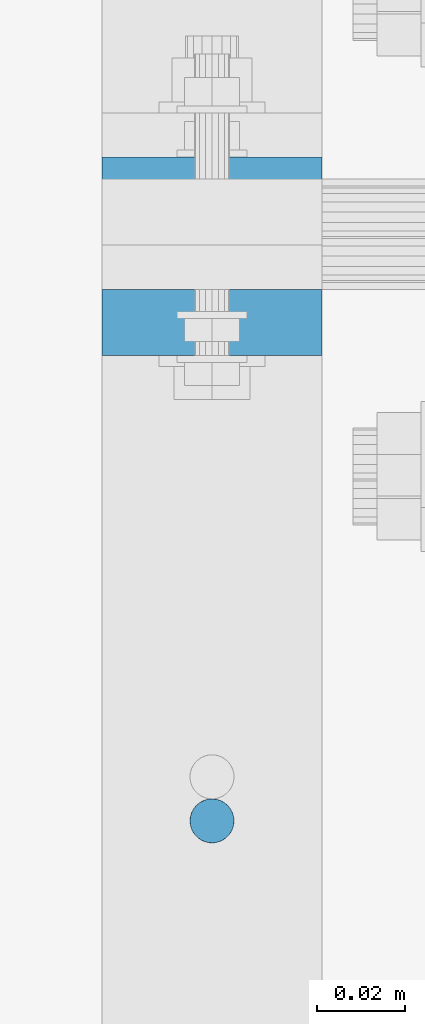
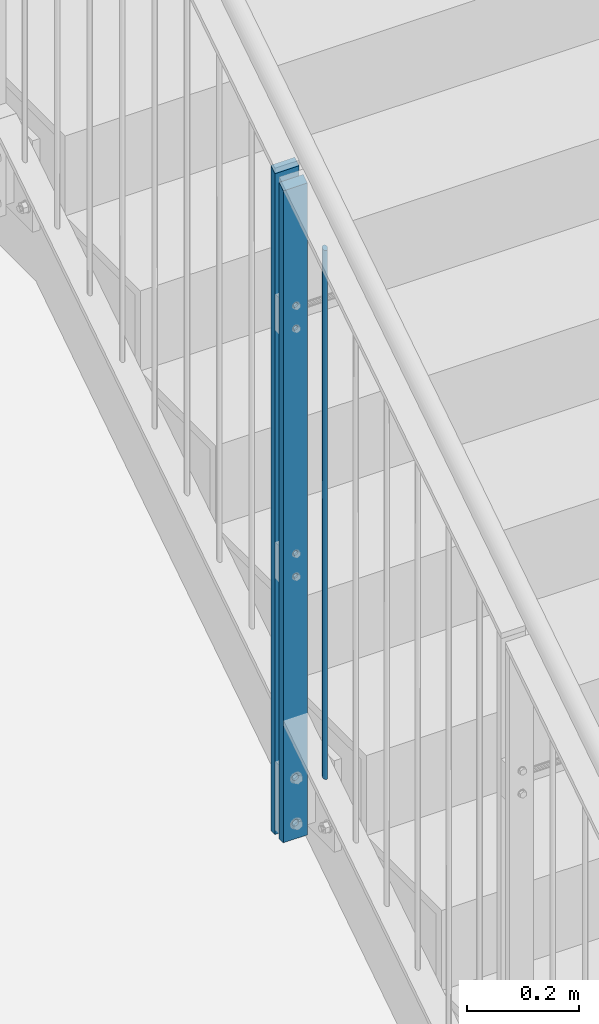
# One storey, part 21 of 296: 3 columns, 12 openings.
"""IFC2X3 building model written with IfcOpenShell, lengths in millimetres."""

from ifc_helpers import new_model, entity, si_unit, converted_unit, frame, frame_2d, origin, origin_with_axes, origin_2d, place, context, project, spatial, rectangle, circle, extrude, clip, halfspace, material, element, save


model = new_model("IFC2X3")

# Units and contexts
model_context = context("Model", 3, precision=1e-09, world=origin_with_axes())
ifc_project = project(units=[si_unit("LENGTHUNIT", "METRE", prefix="MILLI"), si_unit("AREAUNIT", "SQUARE_METRE"), si_unit("VOLUMEUNIT", "CUBIC_METRE"), converted_unit("PLANEANGLEUNIT", "DEGREE", entity("IfcPlaneAngleMeasure", 0.01745329), si_unit("PLANEANGLEUNIT", "RADIAN"), dimensions=[0, 0, 0, 0, 0, 0, 0])], contexts=[model_context])

# Site, building, storey
site_placement = place(None, origin_with_axes())
site = spatial("IfcSite", under=ifc_project, at=site_placement, Name="TZD-S?d | Treppenhausgel?nder", CompositionType="ELEMENT")
building_placement = place(site_placement, origin_with_axes())
building = spatial("IfcBuilding", under=site, at=building_placement, Name="Struktur 1", CompositionType="ELEMENT")
storey_placement = place(building_placement, origin_with_axes())
storey = spatial("IfcBuildingStorey", under=building, at=storey_placement, Name="Default Storey", CompositionType="ELEMENT", Elevation=0.0)

# Column, openings
ifc_material = material(Name="S235JR")
column_1_placement = place(None, frame((-45.0, -1555.0, 1504.999), z_axis=(0.0, 0.0, -1.0), x_axis=(0.0, -1.0, 0.0)))
column_1 = element("IfcColumn", 1, at=column_1_placement, inside=storey, material=ifc_material, Name="-", ObjectType="-", context=model_context, shape_type="Clipping", body=[
    clip(extrude(rectangle(XDim=15.0, YDim=50.0, at=origin_2d()), origin(), (0.0, 0.0, -1.0), 1480.305343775), halfspace(frame((254.465611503, -45.0, -1284.103957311), z_axis=(-0.544258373, 0.0, 0.83891765), x_axis=(0.0, 1.0, 0.0)), True)),
])
opening_1_placement = place(column_1_placement, frame((-8.0, 0.0, -599.999999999), z_axis=(1.0, 0.0, 0.0), x_axis=(0.0, -1.0, 0.0)))
element("IfcOpeningElement", 2, at=opening_1_placement, cuts=column_1, ObjectType="Opening", context=model_context, shape_type="SweptSolid", body=[
    extrude(circle(Radius=5.001, at=frame_2d((0.0, 25.0), x_axis=(1.0, 0.0))), origin(), (0.0, 0.0, 1.0), 16.0),
])
opening_2_placement = place(column_1_placement, frame((-8.0, 0.0, -599.999999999), z_axis=(1.0, 0.0, 0.0), x_axis=(0.0, -1.0, 0.0)))
element("IfcOpeningElement", 3, at=opening_2_placement, cuts=column_1, ObjectType="Opening", context=model_context, shape_type="SweptSolid", body=[
    extrude(circle(Radius=5.001, at=frame_2d((0.0, -25.0), x_axis=(1.0, 0.0))), origin(), (0.0, 0.0, 1.0), 16.0),
])
opening_3_placement = place(column_1_placement, frame((-8.0, 0.0, -85.0), z_axis=(1.0, 0.0, 0.0), x_axis=(0.0, -1.0, 0.0)))
element("IfcOpeningElement", 4, at=opening_3_placement, cuts=column_1, ObjectType="Opening", context=model_context, shape_type="SweptSolid", body=[
    extrude(circle(Radius=7.001, at=frame_2d((0.0, 50.0), x_axis=(1.0, 0.0))), origin(), (0.0, 0.0, 1.0), 16.0),
])
opening_4_placement = place(column_1_placement, frame((-8.0, 0.0, -85.0), z_axis=(1.0, 0.0, 0.0), x_axis=(0.0, -1.0, 0.0)))
element("IfcOpeningElement", 5, at=opening_4_placement, cuts=column_1, ObjectType="Opening", context=model_context, shape_type="SweptSolid", body=[
    extrude(circle(Radius=7.001, at=frame_2d((0.0, -50.0), x_axis=(1.0, 0.0))), origin(), (0.0, 0.0, 1.0), 16.0),
])
opening_5_placement = place(column_1_placement, frame((-8.0, 0.0, -1141.945925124), z_axis=(1.0, 0.0, 0.0), x_axis=(0.0, -1.0, 0.0)))
element("IfcOpeningElement", 6, at=opening_5_placement, cuts=column_1, ObjectType="Opening", context=model_context, shape_type="SweptSolid", body=[
    extrude(circle(Radius=5.001, at=frame_2d((0.0, 25.0), x_axis=(1.0, 0.0))), origin(), (0.0, 0.0, 1.0), 16.0),
])
opening_6_placement = place(column_1_placement, frame((-8.0, 0.0, -1141.945925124), z_axis=(1.0, 0.0, 0.0), x_axis=(0.0, -1.0, 0.0)))
element("IfcOpeningElement", 7, at=opening_6_placement, cuts=column_1, ObjectType="Opening", context=model_context, shape_type="SweptSolid", body=[
    extrude(circle(Radius=5.001, at=frame_2d((0.0, -25.0), x_axis=(1.0, 0.0))), origin(), (0.0, 0.0, 1.0), 16.0),
])

column_2_placement = place(None, frame((-45.0, -1585.0, 1504.999), z_axis=(0.0, 0.0, 1.0), x_axis=(0.0, 1.0, 0.0)))
column_2 = element("IfcColumn", 8, at=column_2_placement, inside=storey, material=ifc_material, Name="-", ObjectType="-", context=model_context, shape_type="Clipping", body=[
    clip(extrude(rectangle(XDim=15.0, YDim=50.0, at=origin_2d()), origin(), (0.0, 0.0, 1.0), 1460.842466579), halfspace(frame((-224.465611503, -45.0, 1284.103957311), z_axis=(0.544258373, 0.0, -0.83891765), x_axis=(0.0, 1.0, 0.0)), True)),
])
opening_7_placement = place(column_2_placement, frame((8.0, 0.0, 599.999999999), z_axis=(-1.0, 0.0, 0.0), x_axis=(0.0, -1.0, 0.0)))
element("IfcOpeningElement", 9, at=opening_7_placement, cuts=column_2, ObjectType="Opening", context=model_context, shape_type="SweptSolid", body=[
    extrude(circle(Radius=5.001, at=frame_2d((0.0, 25.0), x_axis=(1.0, 0.0))), origin(), (0.0, 0.0, 1.0), 16.0),
])
opening_8_placement = place(column_2_placement, frame((8.0, 0.0, 599.999999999), z_axis=(-1.0, 0.0, 0.0), x_axis=(0.0, -1.0, 0.0)))
element("IfcOpeningElement", 10, at=opening_8_placement, cuts=column_2, ObjectType="Opening", context=model_context, shape_type="SweptSolid", body=[
    extrude(circle(Radius=5.001, at=frame_2d((0.0, -25.0), x_axis=(1.0, 0.0))), origin(), (0.0, 0.0, 1.0), 16.0),
])
opening_9_placement = place(column_2_placement, frame((8.0, 0.0, 1141.945925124), z_axis=(-1.0, 0.0, 0.0), x_axis=(0.0, -1.0, 0.0)))
element("IfcOpeningElement", 11, at=opening_9_placement, cuts=column_2, ObjectType="Opening", context=model_context, shape_type="SweptSolid", body=[
    extrude(circle(Radius=5.001, at=frame_2d((0.0, 25.0), x_axis=(1.0, 0.0))), origin(), (0.0, 0.0, 1.0), 16.0),
])
opening_10_placement = place(column_2_placement, frame((8.0, 0.0, 1141.945925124), z_axis=(-1.0, 0.0, 0.0), x_axis=(0.0, -1.0, 0.0)))
element("IfcOpeningElement", 12, at=opening_10_placement, cuts=column_2, ObjectType="Opening", context=model_context, shape_type="SweptSolid", body=[
    extrude(circle(Radius=5.001, at=frame_2d((0.0, -25.0), x_axis=(1.0, 0.0))), origin(), (0.0, 0.0, 1.0), 16.0),
])
opening_11_placement = place(column_2_placement, frame((8.0, 0.0, 85.0), z_axis=(-1.0, 0.0, 0.0), x_axis=(0.0, -1.0, 0.0)))
element("IfcOpeningElement", 13, at=opening_11_placement, cuts=column_2, ObjectType="Opening", context=model_context, shape_type="SweptSolid", body=[
    extrude(circle(Radius=7.001, at=frame_2d((0.0, 50.0), x_axis=(1.0, 0.0))), origin(), (0.0, 0.0, 1.0), 16.0),
])
opening_12_placement = place(column_2_placement, frame((8.0, 0.0, 85.0), z_axis=(-1.0, 0.0, 0.0), x_axis=(0.0, -1.0, 0.0)))
element("IfcOpeningElement", 14, at=opening_12_placement, cuts=column_2, ObjectType="Opening", context=model_context, shape_type="SweptSolid", body=[
    extrude(circle(Radius=7.001, at=frame_2d((0.0, -50.0), x_axis=(1.0, 0.0))), origin(), (0.0, 0.0, 1.0), 16.0),
])

# Column
column_3_placement = place(None, frame((-45.0, -1698.2142857, 1690.731228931), z_axis=(0.0, 0.0, 1.0), x_axis=(0.0, 1.0, 0.0)))
element("IfcColumn", 15, at=column_3_placement, inside=storey, material=ifc_material, Name="-", ObjectType="-", context=model_context, shape_type="Clipping", body=[
    clip(clip(extrude(circle(Radius=5.0, at=origin_2d()), origin(), (0.0, 0.0, 1.0), 1184.937475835), halfspace(frame((416.636205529, -45.0, 284.688027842), z_axis=(-0.544258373, 0.0, 0.83891765), x_axis=(0.0, -1.0, 0.0)), True)), halfspace(frame((-111.251325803, -45.0, 1098.37172838), z_axis=(0.544258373, 0.0, -0.83891765), x_axis=(0.0, 1.0, 0.0)), True)),
])

save(model, "model.ifc")
